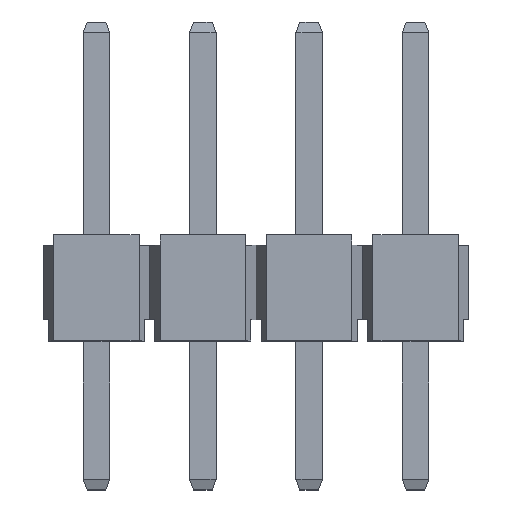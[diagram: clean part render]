
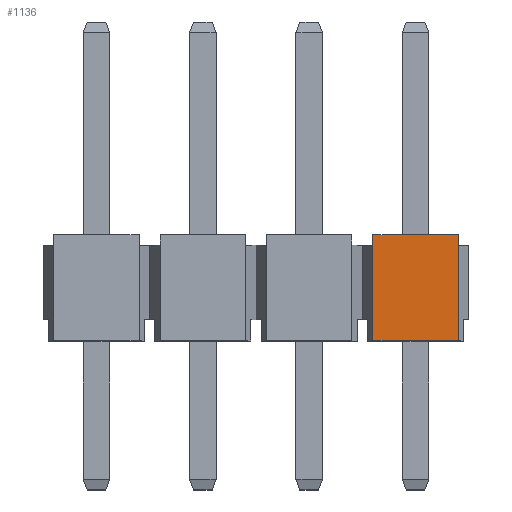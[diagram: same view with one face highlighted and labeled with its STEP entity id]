
A CAD part, top view. The second image highlights one B-rep face of the part: STEP entity #1136.
In plain terms, the highlighted planar face has unit normal (0, 0, 1).
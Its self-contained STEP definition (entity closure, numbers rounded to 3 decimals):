
#1122 = ORIENTED_EDGE ( 'NONE', *, *, #1150, .T. ) ;
#1136 = ADVANCED_FACE ( 'NONE', ( #4296 ), #4295, .F. ) ;
#1137 = EDGE_LOOP ( 'NONE', ( #1138, #1139, #1142, #1144, #1145, #1122 ) ) ;
#1138 = ORIENTED_EDGE ( 'NONE', *, *, #1309, .T. ) ;
#1139 = ORIENTED_EDGE ( 'NONE', *, *, #1140, .F. ) ;
#1140 = EDGE_CURVE ( 'NONE', #1141, #1307, #4350, .T. ) ;
#1141 = VERTEX_POINT ( 'NONE', #4346 ) ;
#1142 = ORIENTED_EDGE ( 'NONE', *, *, #1143, .F. ) ;
#1143 = EDGE_CURVE ( 'NONE', #1295, #1141, #4345, .T. ) ;
#1144 = ORIENTED_EDGE ( 'NONE', *, *, #1251, .F. ) ;
#1145 = ORIENTED_EDGE ( 'NONE', *, *, #1146, .T. ) ;
#1146 = EDGE_CURVE ( 'NONE', #1325, #1151, #4341, .T. ) ;
#1150 = EDGE_CURVE ( 'NONE', #1151, #1310, #4336, .T. ) ;
#1151 = VERTEX_POINT ( 'NONE', #4327 ) ;
#1251 = EDGE_CURVE ( 'NONE', #1325, #1295, #4489, .T. ) ;
#1295 = VERTEX_POINT ( 'NONE', #4596 ) ;
#1307 = VERTEX_POINT ( 'NONE', #4576 ) ;
#1309 = EDGE_CURVE ( 'NONE', #1310, #1307, #4322, .T. ) ;
#1310 = VERTEX_POINT ( 'NONE', #4634 ) ;
#1325 = VERTEX_POINT ( 'NONE', #4609 ) ;
#4294 = AXIS2_PLACEMENT_3D ( 'NONE', #4353, #4352, #4351 ) ;
#4295 = PLANE ( 'NONE',  #4294 ) ;
#4296 = FACE_OUTER_BOUND ( 'NONE', #1137, .T. ) ;
#4322 = LINE ( 'NONE', #4637, #4636 ) ;
#4327 = CARTESIAN_POINT ( 'NONE',  ( -0.8, 1.8, 1. ) ) ;
#4328 = DIRECTION ( 'NONE',  ( 0., -1., 0. ) ) ;
#4329 = VECTOR ( 'NONE', #4328, 1000. ) ;
#4330 = CARTESIAN_POINT ( 'NONE',  ( -0.8, 2., 1. ) ) ;
#4336 = LINE ( 'NONE', #4330, #4329 ) ;
#4338 = DIRECTION ( 'NONE',  ( 0., -1., 0. ) ) ;
#4339 = VECTOR ( 'NONE', #4338, 1000. ) ;
#4340 = CARTESIAN_POINT ( 'NONE',  ( -0.8, 2., 1. ) ) ;
#4341 = LINE ( 'NONE', #4340, #4339 ) ;
#4342 = DIRECTION ( 'NONE',  ( 0., -1., 0. ) ) ;
#4343 = VECTOR ( 'NONE', #4342, 1000. ) ;
#4344 = CARTESIAN_POINT ( 'NONE',  ( 0.8, 2., 1. ) ) ;
#4345 = LINE ( 'NONE', #4344, #4343 ) ;
#4346 = CARTESIAN_POINT ( 'NONE',  ( 0.8, 1.8, 1. ) ) ;
#4347 = DIRECTION ( 'NONE',  ( 0., -1., 0. ) ) ;
#4348 = VECTOR ( 'NONE', #4347, 1000. ) ;
#4349 = CARTESIAN_POINT ( 'NONE',  ( 0.8, 2., 1. ) ) ;
#4350 = LINE ( 'NONE', #4349, #4348 ) ;
#4351 = DIRECTION ( 'NONE',  ( -1., 0., 0. ) ) ;
#4352 = DIRECTION ( 'NONE',  ( 0., 0., -1. ) ) ;
#4353 = CARTESIAN_POINT ( 'NONE',  ( -0.8, 2., 1. ) ) ;
#4486 = DIRECTION ( 'NONE',  ( 1., 0., 0. ) ) ;
#4487 = VECTOR ( 'NONE', #4486, 1000. ) ;
#4488 = CARTESIAN_POINT ( 'NONE',  ( -0.8, 2., 1. ) ) ;
#4489 = LINE ( 'NONE', #4488, #4487 ) ;
#4576 = CARTESIAN_POINT ( 'NONE',  ( 0.8, 0., 1. ) ) ;
#4596 = CARTESIAN_POINT ( 'NONE',  ( 0.8, 2., 1. ) ) ;
#4609 = CARTESIAN_POINT ( 'NONE',  ( -0.8, 2., 1. ) ) ;
#4634 = CARTESIAN_POINT ( 'NONE',  ( -0.8, 0., 1. ) ) ;
#4635 = DIRECTION ( 'NONE',  ( 1., 0., 0. ) ) ;
#4636 = VECTOR ( 'NONE', #4635, 1000. ) ;
#4637 = CARTESIAN_POINT ( 'NONE',  ( -0.8, 0., 1. ) ) ;
